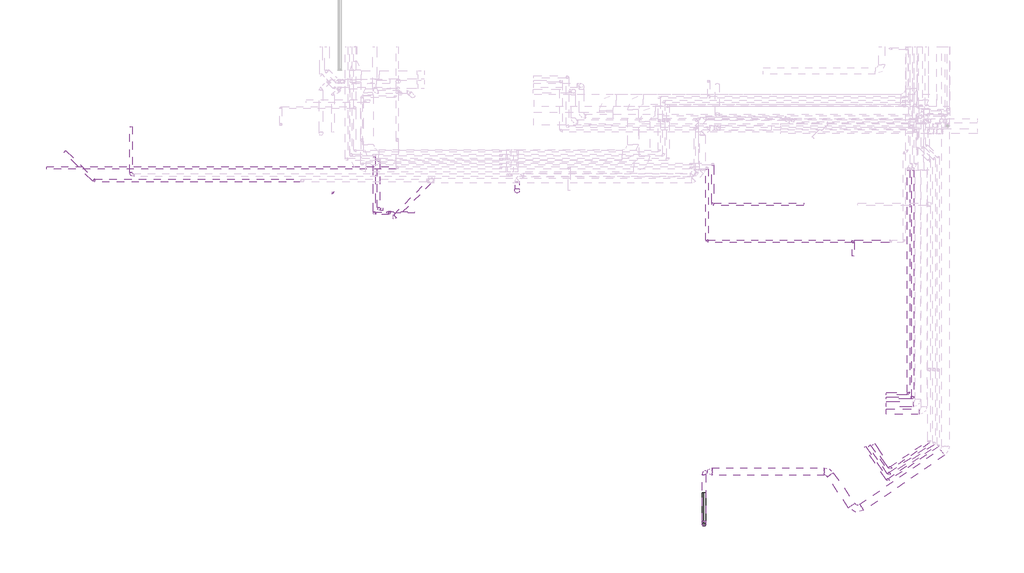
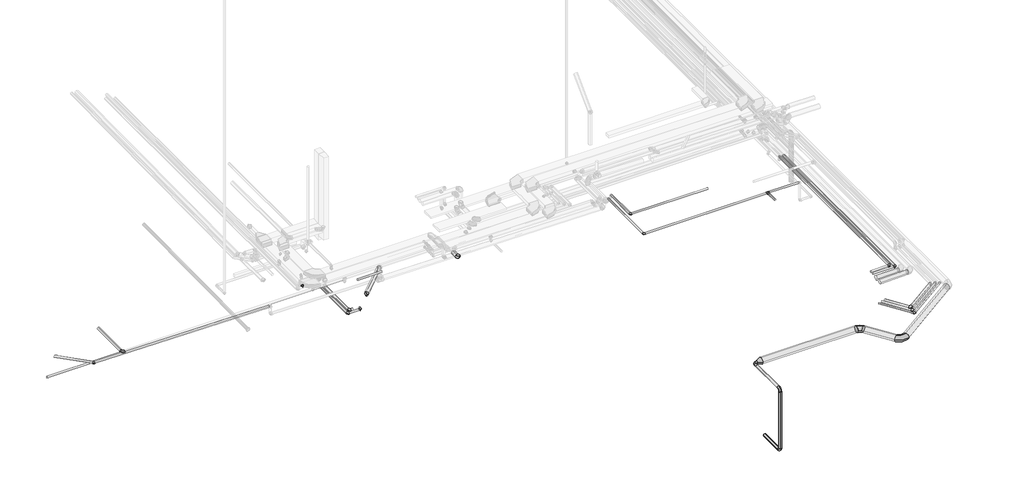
# One storey, part 1 of 12: 29 pipe segments, 15 pipe fittings, 7 duct fittings, 7 duct segments.
"""IFC4 building model written with IfcOpenShell, lengths in millimetres."""

from ifc_helpers import new_model, si_unit, point, frame, frame_2d, origin, place, context, project, spatial, circle_curve, trimmed, segment, composite_curve, outline, extrude, transform, mapped, element, save
from components import duct_fitting_79ab32e3, m_codo_redondo_ext_1_d_63cf0125, m_codo_redondo_ext_1_d_fe658834, m_codo_redondo_ext_1_d_f5cf0ac1, m_codo_redondo_ext_1_d_34d035f7, pipe_fitting_67d104e7, pipe_fitting_eb148d84, pipe_fitting_fa3f9604, pipe_fitting_87aeffad, pipe_fitting_2d09eb79, pipe_fitting_e0fa64fe, pipe_fitting_4a5a9629, pipe_fitting_e199d81e, pipe_fitting_40862f47, pipe_fitting_45596edf

model = new_model("IFC4")

# Units and contexts
model_context = context("Model", 3, world=origin())
ifc_project = project(units=[si_unit("LENGTHUNIT", "METRE", prefix="MILLI")], contexts=[model_context])

# Site, building, storey
site = spatial("IfcSite", under=ifc_project)
building = spatial("IfcBuilding", under=site)
storey = spatial("IfcBuildingStorey", under=building, Name="Nivell -01 PS1_PK", Elevation=1850.0)

# Duct fittings
placement = place(None, origin())
duct_fitting_shape = duct_fitting_79ab32e3(model_context)
element("IfcDuctFitting", 1, ObjectType="M_Transición redonda - Ángulo : EXT_45 graus", at=placement, inside=storey, context=model_context, shape_type="MappedRepresentation", body=[
    mapped(duct_fitting_shape, transform((22229.0046011, -29706.7389526, 4575.0), x_axis=(1.0, 0.0, 0.0), y_axis=(0.0, 1.0, 0.0), z_axis=(0.0, 0.0, 1.0))),
])
m_codo_redondo_ext_1_d_shape = m_codo_redondo_ext_1_d_63cf0125(model_context)
element("IfcDuctFitting", 2, ObjectType="M_Codo redondo : EXT_1 D", at=placement, inside=storey, context=model_context, shape_type="MappedRepresentation", body=[
    mapped(m_codo_redondo_ext_1_d_shape, transform((29242.7943431, -31604.2346922, 4575.0), x_axis=(0.5651354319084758, -0.8249981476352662, 0.0), y_axis=(0.8249981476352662, 0.5651354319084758, 0.0), z_axis=(0.0, 0.0, 1.0))),
])
m_codo_redondo_ext_1_d_2_shape = m_codo_redondo_ext_1_d_fe658834(model_context)
element("IfcDuctFitting", 3, ObjectType="M_Codo redondo : EXT_1 D", at=placement, inside=storey, context=model_context, shape_type="MappedRepresentation", body=[
    mapped(m_codo_redondo_ext_1_d_2_shape, transform((22079.0046011, -32207.5959431, 4575.0), x_axis=(0.0, -1.0, 0.0), y_axis=(0.0, 0.0, -1.0), z_axis=(1.0, 0.0, 0.0))),
])
element("IfcDuctFitting", 4, ObjectType="M_Codo redondo : EXT_1 D", at=placement, inside=storey, context=model_context, shape_type="MappedRepresentation", body=[
    mapped(m_codo_redondo_ext_1_d_2_shape, transform((22079.0046011, -32207.5959431, 950.0), x_axis=(0.0, 0.0, -1.0), y_axis=(0.0, 1.0, 0.0), z_axis=(1.0, 0.0, 0.0))),
])
element("IfcDuctFitting", 5, ObjectType="M_Codo redondo : EXT_1 D", at=placement, inside=storey, context=model_context, shape_type="MappedRepresentation", body=[
    mapped(m_codo_redondo_ext_1_d_2_shape, transform((22079.0046011, -29706.7389526, 4575.0), x_axis=(-1.0, 0.0, 0.0), y_axis=(0.0, -1.0, 0.0), z_axis=(0.0, 0.0, 1.0))),
])
m_codo_redondo_ext_1_d_3_shape = m_codo_redondo_ext_1_d_f5cf0ac1(model_context)
element("IfcDuctFitting", 6, ObjectType="M_Codo redondo : EXT_1 D", at=placement, inside=storey, context=model_context, shape_type="MappedRepresentation", body=[
    mapped(m_codo_redondo_ext_1_d_3_shape, transform((-4964.5580563, -15709.0880218, 6196.7), x_axis=(0.0, -1.0, 0.0), y_axis=(1.0, 0.0, 0.0), z_axis=(0.0, 0.0, 1.0))),
])
m_codo_redondo_ext_1_d_4_shape = m_codo_redondo_ext_1_d_34d035f7(model_context)
element("IfcDuctFitting", 7, ObjectType="M_Codo redondo : EXT_1 D", at=placement, inside=storey, context=model_context, shape_type="MappedRepresentation", body=[
    mapped(m_codo_redondo_ext_1_d_4_shape, transform((27942.9828497, -29706.7389526, 4575.0), x_axis=(-0.5651354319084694, 0.8249981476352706, 0.0), y_axis=(-0.8249981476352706, -0.5651354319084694, 0.0), z_axis=(0.0, 0.0, 1.0))),
])

# Duct segments
element("IfcDuctSegment", 8, ObjectType="EXT_Acer Galvanitzat - Rígid", at=placement, inside=storey, context=model_context, shape_type="SweptSolid", body=[
    extrude(outline(composite_curve([segment(trimmed(circle_curve(frame_2d((0.0, -175.0)), 175.0), [point((-175.0, -175.0))], [point((0.0, 0.0))], False, "CARTESIAN"), True, "CONTINUOUS"), segment(trimmed(circle_curve(frame_2d((0.0, -175.0)), 175.0), [point((0.0, 0.0))], [point((175.0000001, -175.0))], False, "CARTESIAN"), True, "CONTINUOUS"), segment(trimmed(circle_curve(frame_2d((0.0, -175.0)), 175.0), [point((175.0000001, -175.0))], [point((0.0, -350.0))], False, "CARTESIAN"), True, "CONTINUOUS"), segment(trimmed(circle_curve(frame_2d((0.0, -175.0)), 175.0), [point((0.0, -350.0))], [point((-175.0, -175.0))], False, "CARTESIAN"), True, "CONTINUOUS")], self_intersect=False)), frame((29531.5436948, -31406.437291, 4400.0), z_axis=(0.8249981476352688, 0.5651354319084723, 0.0), x_axis=(0.5651354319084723, -0.8249981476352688, 0.0)), (0.0, 0.0, 1.0), 4600.323429),
])
element("IfcDuctSegment", 9, ObjectType="EXT_Acer Galvanitzat - Rígid", at=placement, inside=storey, context=model_context, shape_type="SweptSolid", body=[
    extrude(outline(composite_curve([segment(trimmed(circle_curve(frame_2d((4575.0, 22079.0046011)), 75.0), [point((4575.0, 22004.0046011))], [point((4500.0, 22079.0046011))], False, "CARTESIAN"), True, "CONTINUOUS"), segment(trimmed(circle_curve(frame_2d((4575.0, 22079.0046011)), 75.0), [point((4500.0, 22079.0046011))], [point((4575.0, 22154.0046011))], False, "CARTESIAN"), True, "CONTINUOUS"), segment(trimmed(circle_curve(frame_2d((4575.0, 22079.0046011)), 75.0), [point((4575.0, 22154.0046011))], [point((4650.0, 22079.0046011))], False, "CARTESIAN"), True, "CONTINUOUS"), segment(trimmed(circle_curve(frame_2d((4575.0, 22079.0046011)), 75.0), [point((4650.0, 22079.0046011))], [point((4575.0, 22004.0046011))], False, "CARTESIAN"), True, "CONTINUOUS")], self_intersect=False)), frame((0.0, -32057.5959431, 0.0), z_axis=(0.0, 1.0, 0.0), x_axis=(0.0, 0.0, 1.0)), (0.0, 0.0, 1.0), 2200.8569904),
])
element("IfcDuctSegment", 10, ObjectType="EXT_Acer Galvanitzat - Rígid", at=placement, inside=storey, context=model_context, shape_type="SweptSolid", body=[
    extrude(outline(composite_curve([segment(trimmed(circle_curve(frame_2d((950.0, 22079.0046011)), 75.0), [point((950.0, 22154.0046011))], [point((1025.0, 22079.0046011))], False, "CARTESIAN"), True, "CONTINUOUS"), segment(trimmed(circle_curve(frame_2d((950.0, 22079.0046011)), 75.0), [point((1025.0, 22079.0046011))], [point((950.0, 22004.0046011))], False, "CARTESIAN"), True, "CONTINUOUS"), segment(trimmed(circle_curve(frame_2d((950.0, 22079.0046011)), 75.0), [point((950.0, 22004.0046011))], [point((875.0, 22079.0046011))], False, "CARTESIAN"), True, "CONTINUOUS"), segment(trimmed(circle_curve(frame_2d((950.0, 22079.0046011)), 75.0), [point((875.0, 22079.0046011))], [point((950.0, 22154.0046011))], False, "CARTESIAN"), True, "CONTINUOUS")], self_intersect=False)), frame((0.0, -32057.5959431, 0.0), z_axis=(0.0, 1.0, 0.0), x_axis=(0.0, 0.0, 1.0)), (0.0, 0.0, 1.0), 1350.0),
])
element("IfcDuctSegment", 11, ObjectType="EXT_Acer Galvanitzat - Rígid", at=placement, inside=storey, context=model_context, shape_type="SweptSolid", body=[
    extrude(outline(composite_curve([segment(trimmed(circle_curve(frame_2d((22079.0046011, -32207.5959431)), 75.0), [point((22154.0046011, -32207.5959431))], [point((22079.0046011, -32282.5959431))], False, "CARTESIAN"), True, "CONTINUOUS"), segment(trimmed(circle_curve(frame_2d((22079.0046011, -32207.5959431)), 75.0), [point((22079.0046011, -32282.5959431))], [point((22004.0046011, -32207.5959431))], False, "CARTESIAN"), True, "CONTINUOUS"), segment(trimmed(circle_curve(frame_2d((22079.0046011, -32207.5959431)), 75.0), [point((22004.0046011, -32207.5959431))], [point((22079.0046011, -32132.5959431))], False, "CARTESIAN"), True, "CONTINUOUS"), segment(trimmed(circle_curve(frame_2d((22079.0046011, -32207.5959431)), 75.0), [point((22079.0046011, -32132.5959431))], [point((22154.0046011, -32207.5959431))], False, "CARTESIAN"), True, "CONTINUOUS")], self_intersect=False)), frame((0.0, 0.0, 1100.0), z_axis=(0.0, 0.0, 1.0), x_axis=(1.0, 0.0, 0.0)), (0.0, 0.0, 1.0), 3325.0),
])
element("IfcDuctSegment", 12, ObjectType="EXT_Acer Galvanitzat - Rígid", at=placement, inside=storey, context=model_context, shape_type="SweptSolid", body=[
    extrude(outline(composite_curve([segment(trimmed(circle_curve(frame_2d((6196.7, -4964.5580563)), 62.5), [point((6196.7, -4902.0580563))], [point((6259.2, -4964.5580563))], False, "CARTESIAN"), True, "CONTINUOUS"), segment(trimmed(circle_curve(frame_2d((6196.7, -4964.5580563)), 62.5), [point((6259.2, -4964.5580563))], [point((6196.7, -5027.0580563))], False, "CARTESIAN"), True, "CONTINUOUS"), segment(trimmed(circle_curve(frame_2d((6196.7, -4964.5580563)), 62.5), [point((6196.7, -5027.0580563))], [point((6134.2, -4964.5580563))], False, "CARTESIAN"), True, "CONTINUOUS"), segment(trimmed(circle_curve(frame_2d((6196.7, -4964.5580563)), 62.5), [point((6134.2, -4964.5580563))], [point((6196.7, -4902.0580563))], False, "CARTESIAN"), True, "CONTINUOUS")], self_intersect=False)), frame((0.0, -15584.0880218, 0.0), z_axis=(0.0, 1.0, 0.0), x_axis=(0.0, 0.0, 1.0)), (0.0, 0.0, 1.0), 2175.0),
])
element("IfcDuctSegment", 13, ObjectType="EXT_Acer Galvanitzat - Rígid", at=placement, inside=storey, context=model_context, shape_type="SweptSolid", body=[
    extrude(outline(composite_curve([segment(trimmed(circle_curve(frame_2d((0.0, 175.0)), 175.0), [point((175.0000001, 175.0))], [point((0.0, 0.0))], False, "CARTESIAN"), True, "CONTINUOUS"), segment(trimmed(circle_curve(frame_2d((0.0, 175.0)), 175.0), [point((0.0, 0.0))], [point((-175.0, 175.0))], False, "CARTESIAN"), True, "CONTINUOUS"), segment(trimmed(circle_curve(frame_2d((0.0, 175.0)), 175.0), [point((-175.0, 175.0))], [point((0.0, 350.0))], False, "CARTESIAN"), True, "CONTINUOUS"), segment(trimmed(circle_curve(frame_2d((0.0, 175.0)), 175.0), [point((0.0, 350.0))], [point((175.0000001, 175.0))], False, "CARTESIAN"), True, "CONTINUOUS")], self_intersect=False)), frame((29044.9969419, -31315.4853405, 4750.0), z_axis=(-0.5651354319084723, 0.8249981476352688, 0.0), x_axis=(0.8249981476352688, 0.5651354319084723, 0.0)), (0.0, 0.0, 1.0), 1765.5115872),
])
element("IfcDuctSegment", 14, ObjectType="EXT_Acer Galvanitzat - Rígid", at=placement, inside=storey, context=model_context, shape_type="SweptSolid", body=[
    extrude(outline(composite_curve([segment(trimmed(circle_curve(frame_2d((-29706.7389526, 4575.0)), 175.0), [point((-29881.7389526, 4575.0))], [point((-29706.7389526, 4750.0))], False, "CARTESIAN"), True, "CONTINUOUS"), segment(trimmed(circle_curve(frame_2d((-29706.7389526, 4575.0)), 175.0), [point((-29706.7389526, 4750.0))], [point((-29531.7389526, 4575.0))], False, "CARTESIAN"), True, "CONTINUOUS"), segment(trimmed(circle_curve(frame_2d((-29706.7389526, 4575.0)), 175.0), [point((-29531.7389526, 4575.0))], [point((-29706.7389526, 4400.0))], False, "CARTESIAN"), True, "CONTINUOUS"), segment(trimmed(circle_curve(frame_2d((-29706.7389526, 4575.0)), 175.0), [point((-29706.7389526, 4400.0))], [point((-29881.7389526, 4575.0))], False, "CARTESIAN"), True, "CONTINUOUS")], self_intersect=False)), frame((22470.4259573, 0.0, 0.0), z_axis=(1.0, 0.0, 0.0), x_axis=(0.0, 1.0, 0.0)), (0.0, 0.0, 1.0), 5288.0684796),
])

# Pipe fittings
pipe_fitting_shape = pipe_fitting_67d104e7(model_context)
element("IfcPipeFitting", 15, ObjectType="M_Codo - Genérico : Estándar", at=placement, inside=storey, context=model_context, shape_type="MappedRepresentation", body=[
    mapped(pipe_fitting_shape, transform((4568.6112291, -16536.8851846, 7253.5630906), x_axis=(-0.7070419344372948, 0.7071009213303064, -0.009999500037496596), y_axis=(-0.7071594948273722, -0.7070419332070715, 0.004141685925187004), z_axis=(-0.004141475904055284, 0.00999958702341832, 0.9999414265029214))),
])
pipe_fitting_2_shape = pipe_fitting_eb148d84(model_context)
element("IfcPipeFitting", 16, ObjectType="M_Codo - Genérico : Estándar", at=placement, inside=storey, context=model_context, shape_type="MappedRepresentation", body=[
    mapped(pipe_fitting_2_shape, transform((13265.97625, -16465.3708122, 5851.8661632), x_axis=(0.0, 0.0, -1.0), y_axis=(0.0, 1.0, 0.0), z_axis=(1.0, 0.0, 0.0))),
])
pipe_fitting_3_shape = pipe_fitting_fa3f9604(model_context)
element("IfcPipeFitting", 17, ObjectType="M_Codo - Genérico : Estándar", at=placement, inside=storey, context=model_context, shape_type="MappedRepresentation", body=[
    mapped(pipe_fitting_3_shape, transform((6521.2662866, -17520.061219, 5545.0), x_axis=(0.0, -1.0, 0.0), y_axis=(1.0, 0.0, 0.0), z_axis=(0.0, 0.0, 1.0))),
])
element("IfcPipeFitting", 18, ObjectType="M_Codo - Genérico : Estándar", at=placement, inside=storey, context=model_context, shape_type="MappedRepresentation", body=[
    mapped(pipe_fitting_3_shape, transform((7245.3970014, -17520.061219, 5545.0), x_axis=(1.0, 0.0, 0.0), y_axis=(0.0, 1.0, 0.0), z_axis=(0.0, 0.0, 1.0))),
])
element("IfcPipeFitting", 19, ObjectType="M_Codo - Genérico : Estándar", at=placement, inside=storey, context=model_context, shape_type="MappedRepresentation", body=[
    mapped(pipe_fitting_3_shape, transform((30808.8842526, -29834.4696308, 4695.0), x_axis=(0.5651354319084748, -0.8249981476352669, 0.0), y_axis=(0.8249981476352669, 0.5651354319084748, 0.0), z_axis=(0.0, 0.0, 1.0))),
])
pipe_fitting_4_shape = pipe_fitting_87aeffad(model_context)
element("IfcPipeFitting", 20, ObjectType="M_Codo - Genérico : Estándar", at=placement, inside=storey, context=model_context, shape_type="MappedRepresentation", body=[
    mapped(pipe_fitting_4_shape, transform((22220.2671011, -18834.3646266, 5519.2), x_axis=(0.0, -1.0, 0.0), y_axis=(1.0, 0.0, 0.0), z_axis=(0.0, 0.0, 1.0))),
])
element("IfcPipeFitting", 21, ObjectType="M_Codo - Genérico : Estándar", at=placement, inside=storey, context=model_context, shape_type="MappedRepresentation", body=[
    mapped(pipe_fitting_4_shape, transform((22490.3309667, -17090.7167702, 5519.2), x_axis=(0.0, -1.0, 0.0), y_axis=(1.0, 0.0, 0.0), z_axis=(0.0, 0.0, 1.0))),
])
element("IfcPipeFitting", 22, ObjectType="M_Codo - Genérico : Estándar", at=placement, inside=storey, context=model_context, shape_type="MappedRepresentation", body=[
    mapped(pipe_fitting_4_shape, transform((30756.9117095, -30112.4963467, 4705.0), x_axis=(0.565135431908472, -0.8249981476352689, 0.0), y_axis=(0.8249981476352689, 0.565135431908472, 0.0), z_axis=(0.0, 0.0, 1.0))),
])
pipe_fitting_5_shape = pipe_fitting_2d09eb79(model_context)
element("IfcPipeFitting", 23, ObjectType="M_Te - Genérica : Estándar", at=placement, inside=storey, context=model_context, shape_type="MappedRepresentation", body=[
    mapped(pipe_fitting_5_shape, transform((29120.2671011, -18834.3646266, 5519.2), x_axis=(1.0, 0.0, 0.0), y_axis=(0.0, 1.0, 0.0), z_axis=(0.0, 0.0, 1.0))),
])
pipe_fitting_6_shape = pipe_fitting_e0fa64fe(model_context)
element("IfcPipeFitting", 24, ObjectType="M_Codo - Genérico : Estándar", at=placement, inside=storey, context=model_context, shape_type="MappedRepresentation", body=[
    mapped(pipe_fitting_6_shape, transform((6721.360533, -17320.5944101, 5537.5), x_axis=(0.0, -1.0, 0.0), y_axis=(1.0, 0.0, 0.0), z_axis=(0.0, 0.0, 1.0))),
])
element("IfcPipeFitting", 25, ObjectType="M_Codo - Genérico : Estándar", at=placement, inside=storey, context=model_context, shape_type="MappedRepresentation", body=[
    mapped(pipe_fitting_6_shape, transform((30860.8567958, -29556.4429148, 4687.5), x_axis=(0.565135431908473, -0.8249981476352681, 0.0), y_axis=(0.8249981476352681, 0.565135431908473, 0.0), z_axis=(0.0, 0.0, 1.0))),
])
pipe_fitting_7_shape = pipe_fitting_4a5a9629(model_context)
element("IfcPipeFitting", 26, ObjectType="M_Codo - Genérico : Estándar", at=placement, inside=storey, context=model_context, shape_type="MappedRepresentation", body=[
    mapped(pipe_fitting_7_shape, transform((31729.2033031, -26032.7131792, 4695.0), x_axis=(0.9999999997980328, -2.009811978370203e-05, 0.0), y_axis=(2.009811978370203e-05, 0.9999999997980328, 0.0), z_axis=(0.0, 0.0, 1.0))),
])
pipe_fitting_8_shape = pipe_fitting_e199d81e(model_context)
element("IfcPipeFitting", 27, ObjectType="M_Codo - Genérico : Estándar", at=placement, inside=storey, context=model_context, shape_type="MappedRepresentation", body=[
    mapped(pipe_fitting_8_shape, transform((31929.2116083, -26232.7216276, 4695.0), x_axis=(0.9999999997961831, -2.0189940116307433e-05, 0.0), y_axis=(2.0189940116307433e-05, 0.9999999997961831, 0.0), z_axis=(0.0, 0.0, 1.0))),
])
pipe_fitting_9_shape = pipe_fitting_40862f47(model_context)
element("IfcPipeFitting", 28, ObjectType="M_Codo - Genérico : Estándar", at=placement, inside=storey, context=model_context, shape_type="MappedRepresentation", body=[
    mapped(pipe_fitting_9_shape, transform((7473.2453825, -17691.0718881, 6461.8719166), x_axis=(0.9999500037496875, 0.0, -0.009999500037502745), y_axis=(-4.141539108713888e-05, 0.9999914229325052, -0.004141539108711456), z_axis=(0.00999941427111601, 0.004141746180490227, 0.9999414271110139))),
])
pipe_fitting_10_shape = pipe_fitting_45596edf(model_context)
element("IfcPipeFitting", 29, ObjectType="M_Codo - Genérico : Estándar", at=placement, inside=storey, context=model_context, shape_type="MappedRepresentation", body=[
    mapped(pipe_fitting_10_shape, transform((-6701.7313025, -15964.8234332, 6331.3577035), x_axis=(0.7071967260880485, -0.7069461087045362, -0.009999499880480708), y_axis=(0.7069461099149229, 0.7072552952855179, -0.004140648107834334), z_axis=(0.009999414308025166, -0.0041408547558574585, 0.9999414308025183))),
])

# Pipe segments
element("IfcPipeSegment", 30, ObjectType="PVC_Baixant", at=placement, inside=storey, context=model_context, shape_type="SweptSolid", body=[
    extrude(outline(composite_curve([segment(trimmed(circle_curve(frame_2d((0.0, -45.0)), 45.0), [point((0.0, 0.0))], [point((45.0, -45.0))], False, "CARTESIAN"), True, "CONTINUOUS"), segment(trimmed(circle_curve(frame_2d((0.0, -45.0)), 45.0), [point((45.0, -45.0))], [point((0.0, -90.0))], False, "CARTESIAN"), True, "CONTINUOUS"), segment(trimmed(circle_curve(frame_2d((0.0, -45.0)), 45.0), [point((0.0, -90.0))], [point((-44.9999999, -45.0))], False, "CARTESIAN"), True, "CONTINUOUS"), segment(trimmed(circle_curve(frame_2d((0.0, -45.0)), 45.0), [point((-44.9999999, -45.0))], [point((0.0, 0.0))], False, "CARTESIAN"), True, "CONTINUOUS")], self_intersect=False)), frame((7113.7190576, -17422.7582255, 7281.6414513), z_axis=(0.9999500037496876, 0.0, 0.009999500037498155), x_axis=(0.009999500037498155, 0.0, -0.9999500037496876)), (0.0, 0.0, 1.0), 1328.4808121),
])
element("IfcPipeSegment", 31, ObjectType="PPR_CLI_Aquatherm Blue Pipe", at=placement, inside=storey, context=model_context, shape_type="SweptSolid", body=[
    extrude(outline(composite_curve([segment(trimmed(circle_curve(frame_2d((0.0, -124.9999999)), 125.0), [point((0.1498912, -8.98e-05))], [point((124.9999102, -125.1498912))], False, "CARTESIAN"), True, "CONTINUOUS"), segment(trimmed(circle_curve(frame_2d((0.0, -124.9999999)), 125.0), [point((124.9999102, -125.1498912))], [point((-0.1498912, -249.9999101))], False, "CARTESIAN"), True, "CONTINUOUS"), segment(trimmed(circle_curve(frame_2d((0.0, -124.9999999)), 125.0), [point((-0.1498912, -249.9999101))], [point((-124.9999102, -124.8501087))], False, "CARTESIAN"), True, "CONTINUOUS"), segment(trimmed(circle_curve(frame_2d((0.0, -124.9999999)), 125.0), [point((-124.9999102, -124.8501087))], [point((0.1498912, -8.98e-05))], False, "CARTESIAN"), True, "CONTINUOUS")], self_intersect=False)), frame((30690.6580717, -26757.6346238, 4625.1498718), z_axis=(0.9998702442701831, -1.931408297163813e-05, 0.016108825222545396), x_axis=(0.016108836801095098, 0.001198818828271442, -0.9998695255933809)), (0.0, 0.0, 1.0), 1551.9412566),
])
element("IfcPipeSegment", 32, ObjectType="PPR_CLI_Aquatherm Blue Pipe", at=placement, inside=storey, context=model_context, shape_type="SweptSolid", body=[
    extrude(outline(composite_curve([segment(trimmed(circle_curve(frame_2d((0.0, 125.0)), 125.0), [point((-0.1356868, 7.36e-05))], [point((-124.9999263, 125.1356868))], False, "CARTESIAN"), True, "CONTINUOUS"), segment(trimmed(circle_curve(frame_2d((0.0, 125.0)), 125.0), [point((-124.9999263, 125.1356868))], [point((0.1356869, 249.9999264))], False, "CARTESIAN"), True, "CONTINUOUS"), segment(trimmed(circle_curve(frame_2d((0.0, 125.0)), 125.0), [point((0.1356869, 249.9999264))], [point((124.9999264, 124.8643131))], False, "CARTESIAN"), True, "CONTINUOUS"), segment(trimmed(circle_curve(frame_2d((0.0, 125.0)), 125.0), [point((124.9999264, 124.8643131))], [point((-0.1356868, 7.36e-05))], False, "CARTESIAN"), True, "CONTINUOUS")], self_intersect=False)), frame((30690.6653687, -26657.7032601, 4624.8643398), z_axis=(0.999803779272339, -2.1498528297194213e-05, 0.019809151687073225), x_axis=(0.019809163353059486, 0.0010850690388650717, -0.9998031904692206)), (0.0, 0.0, 1.0), 1262.0429383),
])
element("IfcPipeSegment", 33, ObjectType="PPR_CLI_Aquatherm Blue Pipe", at=placement, inside=storey, context=model_context, shape_type="SweptSolid", body=[
    extrude(outline(composite_curve([segment(trimmed(circle_curve(frame_2d((0.0, 55.0)), 55.0), [point((-54.9999999, 55.0))], [point((0.0, 110.0))], False, "CARTESIAN"), True, "CONTINUOUS"), segment(trimmed(circle_curve(frame_2d((0.0, 55.0)), 55.0), [point((0.0, 110.0))], [point((55.0, 55.0))], False, "CARTESIAN"), True, "CONTINUOUS"), segment(trimmed(circle_curve(frame_2d((0.0, 55.0)), 55.0), [point((55.0, 55.0))], [point((0.0, 0.0))], False, "CARTESIAN"), True, "CONTINUOUS"), segment(trimmed(circle_curve(frame_2d((0.0, 55.0)), 55.0), [point((0.0, 0.0))], [point((-54.9999999, 55.0))], False, "CARTESIAN"), True, "CONTINUOUS")], self_intersect=False)), frame((31866.2728376, -26232.7203568, 4640.0), z_axis=(-0.9999999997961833, 2.0189940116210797e-05, 0.0), x_axis=(-2.0189940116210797e-05, -0.9999999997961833, 0.0)), (0.0, 0.0, 1.0), 1175.6012133),
])
element("IfcPipeSegment", 34, ObjectType="PPR_CLI_Aquatherm Blue Pipe", at=placement, inside=storey, context=model_context, shape_type="SweptSolid", body=[
    extrude(outline(composite_curve([segment(trimmed(circle_curve(frame_2d((0.0, 55.0)), 55.0), [point((-55.0, 55.0))], [point((0.0, 110.0))], False, "CARTESIAN"), True, "CONTINUOUS"), segment(trimmed(circle_curve(frame_2d((0.0, 55.0)), 55.0), [point((0.0, 110.0))], [point((55.0, 55.0))], False, "CARTESIAN"), True, "CONTINUOUS"), segment(trimmed(circle_curve(frame_2d((0.0, 55.0)), 55.0), [point((55.0, 55.0))], [point((0.0, 0.0))], False, "CARTESIAN"), True, "CONTINUOUS"), segment(trimmed(circle_curve(frame_2d((0.0, 55.0)), 55.0), [point((0.0, 0.0))], [point((-55.0, 55.0))], False, "CARTESIAN"), True, "CONTINUOUS")], self_intersect=False)), frame((31666.2645381, -26032.7119142, 4640.0), z_axis=(-0.9999999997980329, 2.009811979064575e-05, 0.0), x_axis=(-2.009811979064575e-05, -0.9999999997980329, 0.0)), (0.0, 0.0, 1.0), 975.5887432),
])
element("IfcPipeSegment", 35, ObjectType="AN_CI", at=placement, inside=storey, context=model_context, shape_type="SweptSolid", body=[
    extrude(outline(composite_curve([segment(trimmed(circle_curve(frame_2d((-15364.3646266, 5899.2)), 50.8), [point((-15313.5646266, 5899.2))], [point((-15364.3646266, 5848.4))], False, "CARTESIAN"), True, "CONTINUOUS"), segment(trimmed(circle_curve(frame_2d((-15364.3646266, 5899.2)), 50.8), [point((-15364.3646266, 5848.4))], [point((-15415.1646266, 5899.2))], False, "CARTESIAN"), True, "CONTINUOUS"), segment(trimmed(circle_curve(frame_2d((-15364.3646266, 5899.2)), 50.8), [point((-15415.1646266, 5899.2))], [point((-15364.3646266, 5950.0))], False, "CARTESIAN"), True, "CONTINUOUS"), segment(trimmed(circle_curve(frame_2d((-15364.3646266, 5899.2)), 50.8), [point((-15364.3646266, 5950.0))], [point((-15313.5646266, 5899.2))], False, "CARTESIAN"), True, "CONTINUOUS")], self_intersect=False)), frame((-8943.6959341, 0.0, 0.0), z_axis=(1.0, 0.0, 0.0), x_axis=(0.0, 1.0, 0.0)), (0.0, 0.0, 1.0), 16491.2625),
])
element("IfcPipeSegment", 36, ObjectType="AN_CI", at=placement, inside=storey, context=model_context, shape_type="SweptSolid", body=[
    extrude(outline(composite_curve([segment(trimmed(circle_curve(frame_2d((5519.2, 22220.2671011)), 50.8), [point((5519.2, 22169.4671011))], [point((5468.4, 22220.2671011))], False, "CARTESIAN"), True, "CONTINUOUS"), segment(trimmed(circle_curve(frame_2d((5519.2, 22220.2671011)), 50.8), [point((5468.4, 22220.2671011))], [point((5519.2, 22271.0671011))], False, "CARTESIAN"), True, "CONTINUOUS"), segment(trimmed(circle_curve(frame_2d((5519.2, 22220.2671011)), 50.8), [point((5519.2, 22271.0671011))], [point((5570.0, 22220.2671011))], False, "CARTESIAN"), True, "CONTINUOUS"), segment(trimmed(circle_curve(frame_2d((5519.2, 22220.2671011)), 50.8), [point((5570.0, 22220.2671011))], [point((5519.2, 22169.4671011))], False, "CARTESIAN"), True, "CONTINUOUS")], self_intersect=False)), frame((0.0, -18781.9771266, 0.0), z_axis=(0.0, 1.0, 0.0), x_axis=(0.0, 0.0, 1.0)), (0.0, 0.0, 1.0), 3365.225),
])
element("IfcPipeSegment", 37, ObjectType="AN_CI", at=placement, inside=storey, context=model_context, shape_type="SweptSolid", body=[
    extrude(outline(composite_curve([segment(trimmed(circle_curve(frame_2d((-18834.3646266, 5519.2)), 50.8), [point((-18885.1646266, 5519.2))], [point((-18834.3646266, 5570.0))], False, "CARTESIAN"), True, "CONTINUOUS"), segment(trimmed(circle_curve(frame_2d((-18834.3646266, 5519.2)), 50.8), [point((-18834.3646266, 5570.0))], [point((-18783.5646266, 5519.2))], False, "CARTESIAN"), True, "CONTINUOUS"), segment(trimmed(circle_curve(frame_2d((-18834.3646266, 5519.2)), 50.8), [point((-18783.5646266, 5519.2))], [point((-18834.3646266, 5468.4))], False, "CARTESIAN"), True, "CONTINUOUS"), segment(trimmed(circle_curve(frame_2d((-18834.3646266, 5519.2)), 50.8), [point((-18834.3646266, 5468.4))], [point((-18885.1646266, 5519.2))], False, "CARTESIAN"), True, "CONTINUOUS")], self_intersect=False)), frame((22272.6546011, 0.0, 0.0), z_axis=(1.0, 0.0, 0.0), x_axis=(0.0, 1.0, 0.0)), (0.0, 0.0, 1.0), 6788.875),
])
element("IfcPipeSegment", 38, ObjectType="AN_CI", at=placement, inside=storey, context=model_context, shape_type="SweptSolid", body=[
    extrude(outline(composite_curve([segment(trimmed(circle_curve(frame_2d((5519.2, 29120.2671011)), 50.8), [point((5519.2, 29069.4671011))], [point((5468.4, 29120.2671011))], False, "CARTESIAN"), True, "CONTINUOUS"), segment(trimmed(circle_curve(frame_2d((5519.2, 29120.2671011)), 50.8), [point((5468.4, 29120.2671011))], [point((5519.2, 29171.0671011))], False, "CARTESIAN"), True, "CONTINUOUS"), segment(trimmed(circle_curve(frame_2d((5519.2, 29120.2671011)), 50.8), [point((5519.2, 29171.0671011))], [point((5570.0, 29120.2671011))], False, "CARTESIAN"), True, "CONTINUOUS"), segment(trimmed(circle_curve(frame_2d((5519.2, 29120.2671011)), 50.8), [point((5570.0, 29120.2671011))], [point((5519.2, 29069.4671011))], False, "CARTESIAN"), True, "CONTINUOUS")], self_intersect=False)), frame((0.0, -19534.3646266, 0.0), z_axis=(0.0, 1.0, 0.0), x_axis=(0.0, 0.0, 1.0)), (0.0, 0.0, 1.0), 641.2625),
])
element("IfcPipeSegment", 39, ObjectType="AN_CI", at=placement, inside=storey, context=model_context, shape_type="SweptSolid", body=[
    extrude(outline(composite_curve([segment(trimmed(circle_curve(frame_2d((-18834.3646266, 5519.2)), 50.8), [point((-18885.1646266, 5519.2))], [point((-18834.3646266, 5570.0))], False, "CARTESIAN"), True, "CONTINUOUS"), segment(trimmed(circle_curve(frame_2d((-18834.3646266, 5519.2)), 50.8), [point((-18834.3646266, 5570.0))], [point((-18783.5646266, 5519.2))], False, "CARTESIAN"), True, "CONTINUOUS"), segment(trimmed(circle_curve(frame_2d((-18834.3646266, 5519.2)), 50.8), [point((-18783.5646266, 5519.2))], [point((-18834.3646266, 5468.4))], False, "CARTESIAN"), True, "CONTINUOUS"), segment(trimmed(circle_curve(frame_2d((-18834.3646266, 5519.2)), 50.8), [point((-18834.3646266, 5468.4))], [point((-18885.1646266, 5519.2))], False, "CARTESIAN"), True, "CONTINUOUS")], self_intersect=False)), frame((29179.0046011, 0.0, 0.0), z_axis=(1.0, 0.0, 0.0), x_axis=(0.0, 1.0, 0.0)), (0.0, 0.0, 1.0), 1658.24375),
])
element("IfcPipeSegment", 40, ObjectType="AN_CI", at=placement, inside=storey, context=model_context, shape_type="SweptSolid", body=[
    extrude(outline(composite_curve([segment(trimmed(circle_curve(frame_2d((-17090.7167702, 5519.2)), 50.8), [point((-17039.9167702, 5519.2))], [point((-17090.7167702, 5468.4))], False, "CARTESIAN"), True, "CONTINUOUS"), segment(trimmed(circle_curve(frame_2d((-17090.7167702, 5519.2)), 50.8), [point((-17090.7167702, 5468.4))], [point((-17141.5167702, 5519.2))], False, "CARTESIAN"), True, "CONTINUOUS"), segment(trimmed(circle_curve(frame_2d((-17090.7167702, 5519.2)), 50.8), [point((-17141.5167702, 5519.2))], [point((-17090.7167702, 5570.0))], False, "CARTESIAN"), True, "CONTINUOUS"), segment(trimmed(circle_curve(frame_2d((-17090.7167702, 5519.2)), 50.8), [point((-17090.7167702, 5570.0))], [point((-17039.9167702, 5519.2))], False, "CARTESIAN"), True, "CONTINUOUS")], self_intersect=False)), frame((22542.7184667, 0.0, 0.0), z_axis=(1.0, 0.0, 0.0), x_axis=(0.0, 1.0, 0.0)), (0.0, 0.0, 1.0), 4247.6125),
])
element("IfcPipeSegment", 41, ObjectType="AN_CI", at=placement, inside=storey, context=model_context, shape_type="SweptSolid", body=[
    extrude(outline(composite_curve([segment(trimmed(circle_curve(frame_2d((5519.2, 22490.3309667)), 50.8), [point((5519.2, 22541.1309667))], [point((5570.0, 22490.3309667))], False, "CARTESIAN"), True, "CONTINUOUS"), segment(trimmed(circle_curve(frame_2d((5519.2, 22490.3309667)), 50.8), [point((5570.0, 22490.3309667))], [point((5519.2, 22439.5309667))], False, "CARTESIAN"), True, "CONTINUOUS"), segment(trimmed(circle_curve(frame_2d((5519.2, 22490.3309667)), 50.8), [point((5519.2, 22439.5309667))], [point((5468.4, 22490.3309667))], False, "CARTESIAN"), True, "CONTINUOUS"), segment(trimmed(circle_curve(frame_2d((5519.2, 22490.3309667)), 50.8), [point((5468.4, 22490.3309667))], [point((5519.2, 22541.1309667))], False, "CARTESIAN"), True, "CONTINUOUS")], self_intersect=False)), frame((0.0, -17038.3292702, 0.0), z_axis=(0.0, 1.0, 0.0), x_axis=(0.0, 0.0, 1.0)), (0.0, 0.0, 1.0), 1801.5606816),
])
element("IfcPipeSegment", 42, ObjectType="PP_FN", at=placement, inside=storey, context=model_context, shape_type="SweptSolid", body=[
    extrude(outline(composite_curve([segment(trimmed(circle_curve(frame_2d((5537.5, 6721.360533)), 62.5), [point((5537.5, 6783.860533))], [point((5600.0, 6721.360533))], False, "CARTESIAN"), True, "CONTINUOUS"), segment(trimmed(circle_curve(frame_2d((5537.5, 6721.360533)), 62.5), [point((5600.0, 6721.360533))], [point((5537.5, 6658.860533))], False, "CARTESIAN"), True, "CONTINUOUS"), segment(trimmed(circle_curve(frame_2d((5537.5, 6721.360533)), 62.5), [point((5537.5, 6658.860533))], [point((5475.0, 6721.360533))], False, "CARTESIAN"), True, "CONTINUOUS"), segment(trimmed(circle_curve(frame_2d((5537.5, 6721.360533)), 62.5), [point((5475.0, 6721.360533))], [point((5537.5, 6783.860533))], False, "CARTESIAN"), True, "CONTINUOUS")], self_intersect=False)), frame((0.0, -17249.1569101, 0.0), z_axis=(0.0, 1.0, 0.0), x_axis=(0.0, 0.0, 1.0)), (0.0, 0.0, 1.0), 2210.2279547),
])
element("IfcPipeSegment", 43, ObjectType="PP_FN", at=placement, inside=storey, context=model_context, shape_type="SweptSolid", body=[
    extrude(outline(composite_curve([segment(trimmed(circle_curve(frame_2d((5545.0, 6521.2662866)), 55.0), [point((5545.0, 6576.2662866))], [point((5600.0, 6521.2662866))], False, "CARTESIAN"), True, "CONTINUOUS"), segment(trimmed(circle_curve(frame_2d((5545.0, 6521.2662866)), 55.0), [point((5600.0, 6521.2662866))], [point((5545.0, 6466.2662866))], False, "CARTESIAN"), True, "CONTINUOUS"), segment(trimmed(circle_curve(frame_2d((5545.0, 6521.2662866)), 55.0), [point((5545.0, 6466.2662866))], [point((5490.0, 6521.2662866))], False, "CARTESIAN"), True, "CONTINUOUS"), segment(trimmed(circle_curve(frame_2d((5545.0, 6521.2662866)), 55.0), [point((5490.0, 6521.2662866))], [point((5545.0, 6576.2662866))], False, "CARTESIAN"), True, "CONTINUOUS")], self_intersect=False)), frame((0.0, -17457.123719, 0.0), z_axis=(0.0, 1.0, 0.0), x_axis=(0.0, 0.0, 1.0)), (0.0, 0.0, 1.0), 2626.6947635),
])
element("IfcPipeSegment", 44, ObjectType="PP_FN", at=placement, inside=storey, context=model_context, shape_type="SweptSolid", body=[
    extrude(outline(composite_curve([segment(trimmed(circle_curve(frame_2d((-17320.5944101, 5537.5)), 62.5), [point((-17258.0944101, 5537.5))], [point((-17320.5944101, 5475.0))], False, "CARTESIAN"), True, "CONTINUOUS"), segment(trimmed(circle_curve(frame_2d((-17320.5944101, 5537.5)), 62.5), [point((-17320.5944101, 5475.0))], [point((-17383.0944101, 5537.5))], False, "CARTESIAN"), True, "CONTINUOUS"), segment(trimmed(circle_curve(frame_2d((-17320.5944101, 5537.5)), 62.5), [point((-17383.0944101, 5537.5))], [point((-17320.5944101, 5600.0))], False, "CARTESIAN"), True, "CONTINUOUS"), segment(trimmed(circle_curve(frame_2d((-17320.5944101, 5537.5)), 62.5), [point((-17320.5944101, 5600.0))], [point((-17258.0944101, 5537.5))], False, "CARTESIAN"), True, "CONTINUOUS")], self_intersect=False)), frame((6792.798033, 0.0, 0.0), z_axis=(1.0, 0.0, 0.0), x_axis=(0.0, 1.0, 0.0)), (0.0, 0.0, 1.0), 122.6508383),
])
element("IfcPipeSegment", 45, ObjectType="PP_FN", at=placement, inside=storey, context=model_context, shape_type="SweptSolid", body=[
    extrude(outline(composite_curve([segment(trimmed(circle_curve(frame_2d((-17520.061219, 5545.0)), 55.0), [point((-17575.061219, 5545.0))], [point((-17520.061219, 5600.0))], False, "CARTESIAN"), True, "CONTINUOUS"), segment(trimmed(circle_curve(frame_2d((-17520.061219, 5545.0)), 55.0), [point((-17520.061219, 5600.0))], [point((-17465.061219, 5545.0))], False, "CARTESIAN"), True, "CONTINUOUS"), segment(trimmed(circle_curve(frame_2d((-17520.061219, 5545.0)), 55.0), [point((-17465.061219, 5545.0))], [point((-17520.061219, 5490.0))], False, "CARTESIAN"), True, "CONTINUOUS"), segment(trimmed(circle_curve(frame_2d((-17520.061219, 5545.0)), 55.0), [point((-17520.061219, 5490.0))], [point((-17575.061219, 5545.0))], False, "CARTESIAN"), True, "CONTINUOUS")], self_intersect=False)), frame((6584.2037866, 0.0, 0.0), z_axis=(1.0, 0.0, 0.0), x_axis=(0.0, 1.0, 0.0)), (0.0, 0.0, 1.0), 598.2557148),
])
element("IfcPipeSegment", 46, ObjectType="PP_FN", at=placement, inside=storey, context=model_context, shape_type="SweptSolid", body=[
    extrude(outline(composite_curve([segment(trimmed(circle_curve(frame_2d((5545.0, 7245.3970014)), 55.0), [point((5545.0, 7190.3970014))], [point((5490.0, 7245.3970014))], False, "CARTESIAN"), True, "CONTINUOUS"), segment(trimmed(circle_curve(frame_2d((5545.0, 7245.3970014)), 55.0), [point((5490.0, 7245.3970014))], [point((5545.0, 7300.3970014))], False, "CARTESIAN"), True, "CONTINUOUS"), segment(trimmed(circle_curve(frame_2d((5545.0, 7245.3970014)), 55.0), [point((5545.0, 7300.3970014))], [point((5600.0, 7245.3970014))], False, "CARTESIAN"), True, "CONTINUOUS"), segment(trimmed(circle_curve(frame_2d((5545.0, 7245.3970014)), 55.0), [point((5600.0, 7245.3970014))], [point((5545.0, 7190.3970014))], False, "CARTESIAN"), True, "CONTINUOUS")], self_intersect=False)), frame((0.0, -17457.123719, 0.0), z_axis=(0.0, 1.0, 0.0), x_axis=(0.0, 0.0, 1.0)), (0.0, 0.0, 1.0), 56.3812138),
])
element("IfcPipeSegment", 47, ObjectType="PP_FN", at=placement, inside=storey, context=model_context, shape_type="SweptSolid", body=[
    extrude(outline(composite_curve([segment(trimmed(circle_curve(frame_2d((0.0, 62.5)), 62.5), [point((62.5000001, 62.5))], [point((0.0, 0.0))], False, "CARTESIAN"), True, "CONTINUOUS"), segment(trimmed(circle_curve(frame_2d((0.0, 62.5)), 62.5), [point((0.0, 0.0))], [point((-62.4999999, 62.5))], False, "CARTESIAN"), True, "CONTINUOUS"), segment(trimmed(circle_curve(frame_2d((0.0, 62.5)), 62.5), [point((-62.4999999, 62.5))], [point((0.0, 125.0))], False, "CARTESIAN"), True, "CONTINUOUS"), segment(trimmed(circle_curve(frame_2d((0.0, 62.5)), 62.5), [point((0.0, 125.0))], [point((62.5000001, 62.5))], False, "CARTESIAN"), True, "CONTINUOUS")], self_intersect=False)), frame((30919.7926009, -29516.0710524, 4750.0), z_axis=(0.8249981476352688, 0.5651354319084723, 0.0), x_axis=(0.5651354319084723, -0.8249981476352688, 0.0)), (0.0, 0.0, 1.0), 2129.270627),
])
element("IfcPipeSegment", 48, ObjectType="PP_FN", at=placement, inside=storey, context=model_context, shape_type="SweptSolid", body=[
    extrude(outline(composite_curve([segment(trimmed(circle_curve(frame_2d((0.0, 55.0)), 55.0), [point((55.0, 55.0))], [point((0.0, 0.0))], False, "CARTESIAN"), True, "CONTINUOUS"), segment(trimmed(circle_curve(frame_2d((0.0, 55.0)), 55.0), [point((0.0, 0.0))], [point((-55.0, 55.0))], False, "CARTESIAN"), True, "CONTINUOUS"), segment(trimmed(circle_curve(frame_2d((0.0, 55.0)), 55.0), [point((-55.0, 55.0))], [point((0.0, 110.0))], False, "CARTESIAN"), True, "CONTINUOUS"), segment(trimmed(circle_curve(frame_2d((0.0, 55.0)), 55.0), [point((0.0, 110.0))], [point((55.0, 55.0))], False, "CARTESIAN"), True, "CONTINUOUS")], self_intersect=False)), frame((30860.8075735, -29798.9014195, 4750.0), z_axis=(0.8249981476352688, 0.5651354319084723, 0.0), x_axis=(0.5651354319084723, -0.8249981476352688, 0.0)), (0.0, 0.0, 1.0), 2486.7237064),
])
element("IfcPipeSegment", 49, ObjectType="PP_FN", at=placement, inside=storey, context=model_context, shape_type="SweptSolid", body=[
    extrude(outline(composite_curve([segment(trimmed(circle_curve(frame_2d((0.0, 45.0)), 45.0), [point((45.0000001, 45.0))], [point((0.0, 0.0))], False, "CARTESIAN"), True, "CONTINUOUS"), segment(trimmed(circle_curve(frame_2d((0.0, 45.0)), 45.0), [point((0.0, 0.0))], [point((-44.9999999, 45.0))], False, "CARTESIAN"), True, "CONTINUOUS"), segment(trimmed(circle_curve(frame_2d((0.0, 45.0)), 45.0), [point((-44.9999999, 45.0))], [point((0.0, 90.0))], False, "CARTESIAN"), True, "CONTINUOUS"), segment(trimmed(circle_curve(frame_2d((0.0, 45.0)), 45.0), [point((0.0, 90.0))], [point((45.0000001, 45.0))], False, "CARTESIAN"), True, "CONTINUOUS")], self_intersect=False)), frame((30800.1312999, -30082.8903142, 4750.0), z_axis=(0.8249981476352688, 0.5651354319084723, 0.0), x_axis=(0.5651354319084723, -0.8249981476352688, 0.0)), (0.0, 0.0, 1.0), 2808.2534586),
])
element("IfcPipeSegment", 50, ObjectType="PVC_Baixant", at=placement, inside=storey, context=model_context, shape_type="SweptSolid", body=[
    extrude(outline(composite_curve([segment(trimmed(circle_curve(frame_2d((0.0, -100.0)), 100.0), [point((100.0, -100.0))], [point((0.0, -200.0000001))], False, "CARTESIAN"), True, "CONTINUOUS"), segment(trimmed(circle_curve(frame_2d((0.0, -100.0)), 100.0), [point((0.0, -200.0000001))], [point((-100.0, -100.0))], False, "CARTESIAN"), True, "CONTINUOUS"), segment(trimmed(circle_curve(frame_2d((0.0, -100.0)), 100.0), [point((-100.0, -100.0))], [point((0.0, 0.0))], False, "CARTESIAN"), True, "CONTINUOUS"), segment(trimmed(circle_curve(frame_2d((0.0, -100.0)), 100.0), [point((0.0, 0.0))], [point((100.0, -100.0))], False, "CARTESIAN"), True, "CONTINUOUS")], self_intersect=False)), frame((13265.97625, -16005.9258515, 5947.2767135), z_axis=(0.0, -0.9999500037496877, 0.00999950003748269), x_axis=(1.0, 0.0, 0.0)), (0.0, 0.0, 1.0), 350.0203305),
])
element("IfcPipeSegment", 51, ObjectType="PVC_Baixant", at=placement, inside=storey, context=model_context, shape_type="SweptSolid", body=[
    extrude(outline(composite_curve([segment(trimmed(circle_curve(frame_2d((0.0, -62.5)), 62.5), [point((-62.4968742, -63.1250754))], [point((-0.6250754, -0.0031258))], False, "CARTESIAN"), True, "CONTINUOUS"), segment(trimmed(circle_curve(frame_2d((0.0, -62.5)), 62.5), [point((-0.6250754, -0.0031258))], [point((62.4968742, -61.8749246))], False, "CARTESIAN"), True, "CONTINUOUS"), segment(trimmed(circle_curve(frame_2d((0.0, -62.5)), 62.5), [point((62.4968742, -61.8749246))], [point((0.6250754, -124.9968742))], False, "CARTESIAN"), True, "CONTINUOUS"), segment(trimmed(circle_curve(frame_2d((0.0, -62.5)), 62.5), [point((0.6250754, -124.9968742))], [point((-62.4968742, -63.1250754))], False, "CARTESIAN"), True, "CONTINUOUS")], self_intersect=False)), frame((-6722.6510535, -15943.0272624, 6269.1597506), z_axis=(-0.7071967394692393, 0.7069461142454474, 0.009998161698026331), x_axis=(0.7070168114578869, 0.7071260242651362, 0.010000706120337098)), (0.0, 0.0, 1.0), 1917.0811187),
])
element("IfcPipeSegment", 52, ObjectType="PVC_Baixant", at=placement, inside=storey, context=model_context, shape_type="SweptSolid", body=[
    extrude(outline(composite_curve([segment(trimmed(circle_curve(frame_2d((0.0, -62.5)), 62.5), [point((0.0, -125.0))], [point((-62.5, -62.5))], False, "CARTESIAN"), True, "CONTINUOUS"), segment(trimmed(circle_curve(frame_2d((0.0, -62.5)), 62.5), [point((-62.5, -62.5))], [point((0.0, 0.0))], False, "CARTESIAN"), True, "CONTINUOUS"), segment(trimmed(circle_curve(frame_2d((0.0, -62.5)), 62.5), [point((0.0, 0.0))], [point((62.5000001, -62.5))], False, "CARTESIAN"), True, "CONTINUOUS"), segment(trimmed(circle_curve(frame_2d((0.0, -62.5)), 62.5), [point((62.5000001, -62.5))], [point((0.0, -125.0))], False, "CARTESIAN"), True, "CONTINUOUS")], self_intersect=False)), frame((3061.0673686, -15902.3234332, 6233.7297167), z_axis=(-0.9999500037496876, 0.0, 0.009999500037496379), x_axis=(0.009999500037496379, 0.0, 0.9999500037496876)), (0.0, 0.0, 1.0), 9733.7055661),
])
element("IfcPipeSegment", 53, ObjectType="PP_FN", at=placement, inside=storey, context=model_context, shape_type="SweptSolid", body=[
    extrude(outline(composite_curve([segment(trimmed(circle_curve(frame_2d((0.0, 62.5)), 62.5), [point((62.5, 62.5))], [point((0.0, 0.0))], False, "CARTESIAN"), True, "CONTINUOUS"), segment(trimmed(circle_curve(frame_2d((0.0, 62.5)), 62.5), [point((0.0, 0.0))], [point((-62.5000001, 62.5))], False, "CARTESIAN"), True, "CONTINUOUS"), segment(trimmed(circle_curve(frame_2d((0.0, 62.5)), 62.5), [point((-62.5000001, 62.5))], [point((0.0, 125.0))], False, "CARTESIAN"), True, "CONTINUOUS"), segment(trimmed(circle_curve(frame_2d((0.0, 62.5)), 62.5), [point((0.0, 125.0))], [point((62.5, 62.5))], False, "CARTESIAN"), True, "CONTINUOUS")], self_intersect=False)), frame((30820.4849334, -29497.5071097, 4750.0), z_axis=(-0.5651354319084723, 0.8249981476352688, 0.0), x_axis=(0.8249981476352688, 0.5651354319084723, 0.0)), (0.0, 0.0, 1.0), 1301.9410908),
])
element("IfcPipeSegment", 54, ObjectType="PP_FN", at=placement, inside=storey, context=model_context, shape_type="SweptSolid", body=[
    extrude(outline(composite_curve([segment(trimmed(circle_curve(frame_2d((0.0, 55.0)), 55.0), [point((55.0, 55.0))], [point((0.0, 0.0))], False, "CARTESIAN"), True, "CONTINUOUS"), segment(trimmed(circle_curve(frame_2d((0.0, 55.0)), 55.0), [point((0.0, 0.0))], [point((-55.0, 55.0))], False, "CARTESIAN"), True, "CONTINUOUS"), segment(trimmed(circle_curve(frame_2d((0.0, 55.0)), 55.0), [point((-55.0, 55.0))], [point((0.0, 110.0))], False, "CARTESIAN"), True, "CONTINUOUS"), segment(trimmed(circle_curve(frame_2d((0.0, 55.0)), 55.0), [point((0.0, 110.0))], [point((55.0, 55.0))], False, "CARTESIAN"), True, "CONTINUOUS")], self_intersect=False)), frame((30773.3160414, -29782.5463098, 4750.0), z_axis=(-0.5651354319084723, 0.8249981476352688, 0.0), x_axis=(0.8249981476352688, 0.5651354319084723, 0.0)), (0.0, 0.0, 1.0), 1572.3738037),
])
element("IfcPipeSegment", 55, ObjectType="PP_FN", at=placement, inside=storey, context=model_context, shape_type="SweptSolid", body=[
    extrude(outline(composite_curve([segment(trimmed(circle_curve(frame_2d((0.0, 45.0)), 45.0), [point((45.0, 45.0))], [point((0.0, 0.0))], False, "CARTESIAN"), True, "CONTINUOUS"), segment(trimmed(circle_curve(frame_2d((0.0, 45.0)), 45.0), [point((0.0, 0.0))], [point((-44.9999999, 45.0))], False, "CARTESIAN"), True, "CONTINUOUS"), segment(trimmed(circle_curve(frame_2d((0.0, 45.0)), 45.0), [point((-44.9999999, 45.0))], [point((0.0, 90.0))], False, "CARTESIAN"), True, "CONTINUOUS"), segment(trimmed(circle_curve(frame_2d((0.0, 45.0)), 45.0), [point((0.0, 90.0))], [point((45.0, 45.0))], False, "CARTESIAN"), True, "CONTINUOUS")], self_intersect=False)), frame((30727.305677, -30069.2767562, 4750.0), z_axis=(-0.5651354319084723, 0.8249981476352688, 0.0), x_axis=(0.8249981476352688, 0.5651354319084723, 0.0)), (0.0, 0.0, 1.0), 1844.8565166),
])
element("IfcPipeSegment", 56, ObjectType="PPR_CLI_Aquatherm Blue Pipe", at=placement, inside=storey, context=model_context, shape_type="SweptSolid", body=[
    extrude(outline(composite_curve([segment(trimmed(circle_curve(frame_2d((4695.0, 31929.2116083)), 55.0), [point((4695.0, 31984.2116083))], [point((4750.0, 31929.2116083))], False, "CARTESIAN"), True, "CONTINUOUS"), segment(trimmed(circle_curve(frame_2d((4695.0, 31929.2116083)), 55.0), [point((4750.0, 31929.2116083))], [point((4695.0, 31874.2116083))], False, "CARTESIAN"), True, "CONTINUOUS"), segment(trimmed(circle_curve(frame_2d((4695.0, 31929.2116083)), 55.0), [point((4695.0, 31874.2116083))], [point((4640.0, 31929.2116083))], False, "CARTESIAN"), True, "CONTINUOUS"), segment(trimmed(circle_curve(frame_2d((4695.0, 31929.2116083)), 55.0), [point((4640.0, 31929.2116083))], [point((4695.0, 31984.2116083))], False, "CARTESIAN"), True, "CONTINUOUS")], self_intersect=False)), frame((0.0, -26169.7828569, 0.0), z_axis=(0.0, 1.0, 0.0), x_axis=(0.0, 0.0, 1.0)), (0.0, 0.0, 1.0), 10701.8667338),
])
element("IfcPipeSegment", 57, ObjectType="PPR_CLI_Aquatherm Blue Pipe", at=placement, inside=storey, context=model_context, shape_type="SweptSolid", body=[
    extrude(outline(composite_curve([segment(trimmed(circle_curve(frame_2d((4695.0, 31729.2033031)), 55.0), [point((4695.0, 31784.2033031))], [point((4750.0, 31729.2033031))], False, "CARTESIAN"), True, "CONTINUOUS"), segment(trimmed(circle_curve(frame_2d((4695.0, 31729.2033031)), 55.0), [point((4750.0, 31729.2033031))], [point((4695.0, 31674.2033031))], False, "CARTESIAN"), True, "CONTINUOUS"), segment(trimmed(circle_curve(frame_2d((4695.0, 31729.2033031)), 55.0), [point((4695.0, 31674.2033031))], [point((4640.0, 31729.2033031))], False, "CARTESIAN"), True, "CONTINUOUS"), segment(trimmed(circle_curve(frame_2d((4695.0, 31729.2033031)), 55.0), [point((4640.0, 31729.2033031))], [point((4695.0, 31784.2033031))], False, "CARTESIAN"), True, "CONTINUOUS")], self_intersect=False)), frame((0.0, -25969.7744142, 0.0), z_axis=(0.0, 1.0, 0.0), x_axis=(0.0, 0.0, 1.0)), (0.0, 0.0, 1.0), 10501.8582898),
])
element("IfcPipeSegment", 58, ObjectType="PVC_Baixant", at=placement, inside=storey, context=model_context, shape_type="SweptSolid", body=[
    extrude(outline(composite_curve([segment(trimmed(circle_curve(frame_2d((0.0, -100.0)), 100.0), [point((99.9950004, -100.9999501))], [point((-0.9999502, -199.9950004))], False, "CARTESIAN"), True, "CONTINUOUS"), segment(trimmed(circle_curve(frame_2d((0.0, -100.0)), 100.0), [point((-0.9999502, -199.9950004))], [point((-99.9950004, -99.0000499))], False, "CARTESIAN"), True, "CONTINUOUS"), segment(trimmed(circle_curve(frame_2d((0.0, -100.0)), 100.0), [point((-99.9950004, -99.0000499))], [point((0.9999501, -0.0049996))], False, "CARTESIAN"), True, "CONTINUOUS"), segment(trimmed(circle_curve(frame_2d((0.0, -100.0)), 100.0), [point((0.9999501, -0.0049996))], [point((99.9950004, -100.9999501))], False, "CARTESIAN"), True, "CONTINUOUS")], self_intersect=False)), frame((9126.3965517, -16036.5894839, 6538.4834155), z_axis=(-0.7070891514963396, -0.7070537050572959, 0.009999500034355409), x_axis=(0.7071244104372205, -0.7070184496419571, 0.009999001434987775)), (0.0, 0.0, 1.0), 2292.5994423),
])

save(model, "model.ifc")
